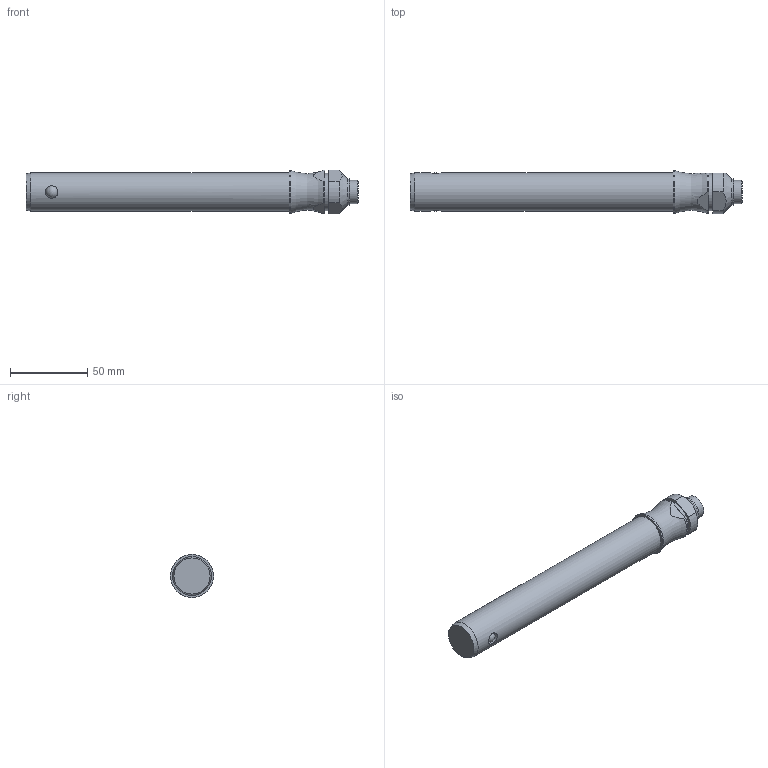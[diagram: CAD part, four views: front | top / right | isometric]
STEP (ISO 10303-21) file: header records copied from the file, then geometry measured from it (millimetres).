
FILE_DESCRIPTION( ( 'STEP AP203' ), '1' );
FILE_NAME( 'C:/Temp/Ganter_Step_05_03_2020/data/3_1/gn113_3/Stainless Steel-Ball lock pin GN 113.3-25-150 (activated).stp', '2020-03-12T08:19:14', ( 'License CC BY-ND 4.0' ), ( 'CADENAS' ), ' ', 'PARTsolutions', ' ' );
FILE_SCHEMA( ( 'CONFIG_CONTROL_DESIGN' ) );
Length unit declared in the file: millimetre
Products named in the file (1): _Stainless Steel-Ball lock pin GN 113.3-25-150 (activated)
Bounding box: 215.05 x 28 x 28 mm (x, y, z)
Volume: 103295.9 mm3; surface area: 18135 mm2
Topology: 1 solids, 1 shells, 31 faces, 74 edges, 46 vertices
Faces by surface type: cylinder 13, plane 11, cone 4, sphere 2, torus 1
Full cylindrical faces by diameter (mm): 8 x2, 15 x1, 17 x1, 24 x1, 25 x1, 28 x1
Entity records: 1046 total; most frequent: CARTESIAN_POINT 382, DIRECTION 134, ORIENTED_EDGE 104, AXIS2_PLACEMENT_3D 58, EDGE_CURVE 52, EDGE_LOOP 48, VERTEX_POINT 40, FACE_OUTER_BOUND 39
